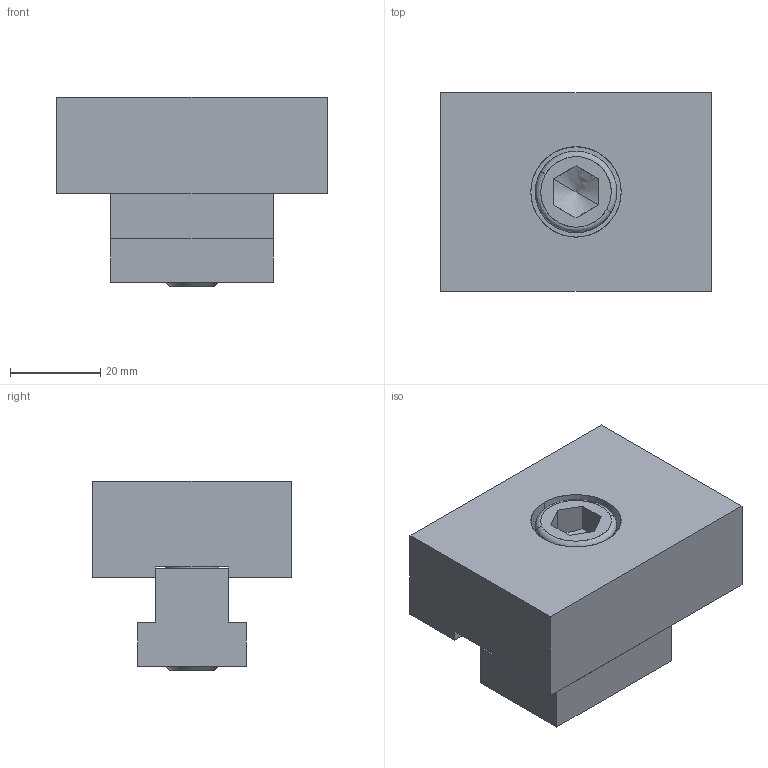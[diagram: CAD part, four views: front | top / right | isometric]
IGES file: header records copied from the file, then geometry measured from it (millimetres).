
Start section: SolidWorks IGES file using analytic representation for surfaces
Global section: file name: X:\11_SW2020-Inv2020\00_全2021-11新製品まで\m\MR-S-M\mr-s-m.IGS; native system: SolidWorks 2020; preprocessor: SolidWorks 2020; author: ImaoCorp; date: 211026.111811; units: millimetre
Bounding box: 60 x 44 x 42 mm (x, y, z)
Surface area: 15215.6 mm2 (no closed solid volume)
Topology: 0 solids, 0 shells, 43 faces, 514 edges, 512 vertices
Faces by surface type: bspline 31, revolution 12
